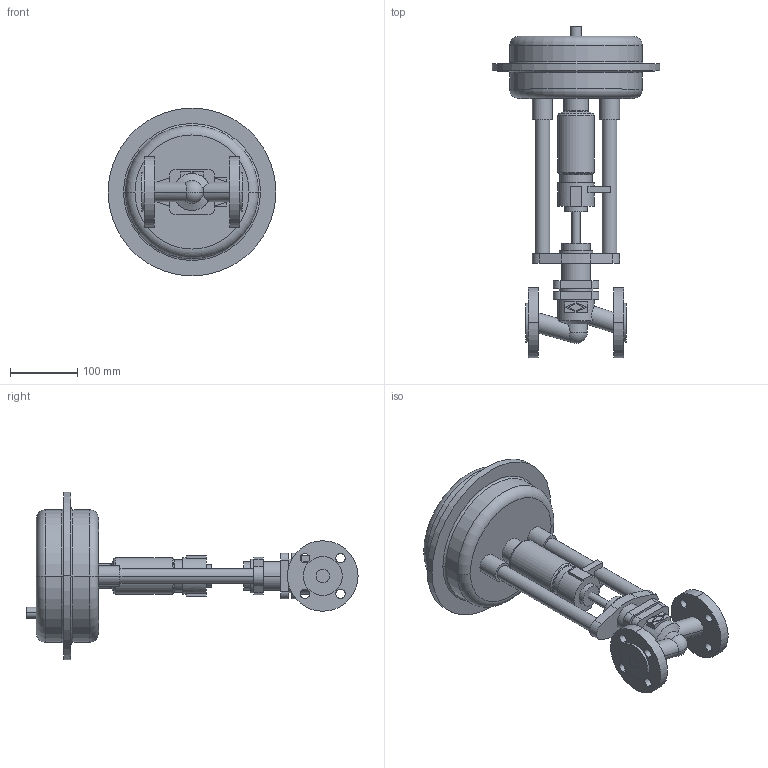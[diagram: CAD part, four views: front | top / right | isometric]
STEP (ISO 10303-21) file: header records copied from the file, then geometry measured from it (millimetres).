
FILE_DESCRIPTION(('OneSpaceDesigner STEP Export'),'2;1');
FILE_NAME('c000000356.stp','2005-02-14T13:58:23',(''),(''),'OneSpace Designer STEP processor (Jan. 2003) for AP203(Solid Model)','OneSpace Designer 12.01D 09-Jul-2004 (C) CoCreate Software GmbH','');
FILE_SCHEMA(('CONFIG_CONTROL_DESIGN'));
Length unit declared in the file: millimetre
Products named in the file (2): 1; 2
Bounding box: 250 x 494.5 x 250 mm (x, y, z)
Volume: 4223595.4 mm3; surface area: 317170.5 mm2
Topology: 2 solids, 2 shells, 181 faces, 436 edges, 284 vertices
Faces by surface type: cylinder 84, plane 73, torus 16, cone 6, sphere 2
Entity records: 5013 total; most frequent: CARTESIAN_POINT 952, ORIENTED_EDGE 868, DIRECTION 727, EDGE_CURVE 434, VERTEX_POINT 284, AXIS2_PLACEMENT_3D 264, EDGE_LOOP 224, VECTOR 199
